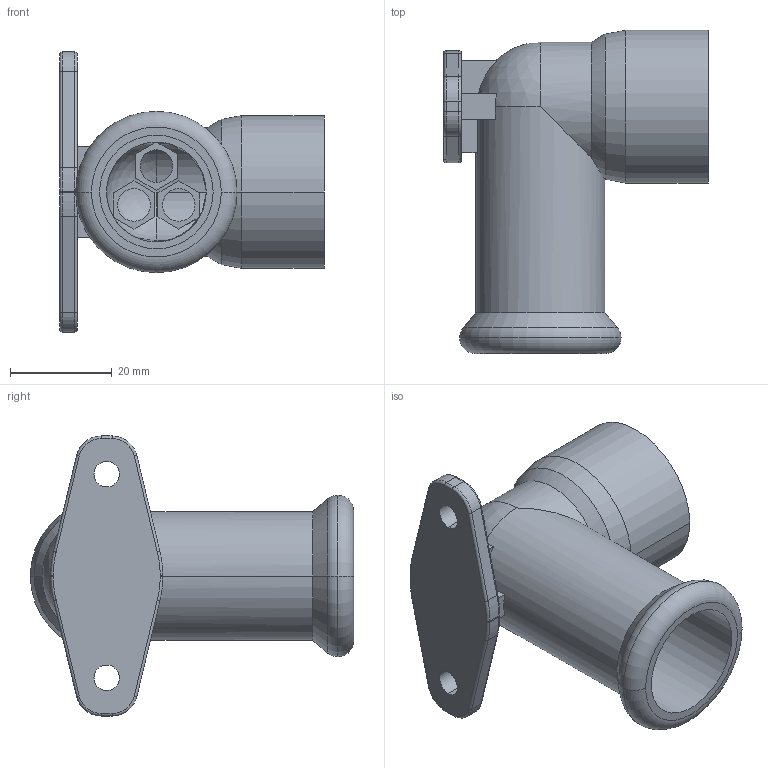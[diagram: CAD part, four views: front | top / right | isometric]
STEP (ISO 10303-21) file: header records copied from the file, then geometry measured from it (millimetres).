
FILE_DESCRIPTION(('OneSpaceDesigner STEP Export'),'2;1');
FILE_NAME('R2716 22xRp3-4.stp','2010-06-10T 9:52:00',(''),(''),'OneSpace Designer STEP processor for AP214 (Solid Model)','OneSpace Modeling 15.00A 14-Mar-2007 (C) CoCreate Software GmbH','');
FILE_SCHEMA(('AUTOMOTIVE_DESIGN { 1 0 10303 214 1 1 1 1 }'));
Length unit declared in the file: millimetre
Products named in the file (2): R2716_22xRp3-4
Assembly tree (1 placements, depth 2):
  R2716_22xRp3-4
    R2716_22xRp3-4
Bounding box: 52 x 63.5 x 55 mm (x, y, z)
Volume: 18566.6 mm3; surface area: 15766.7 mm2
Topology: 1 solids, 1 shells, 148 faces, 371 edges, 230 vertices
Faces by surface type: plane 57, cylinder 57, torus 20, cone 10, sphere 2, bspline 2
Entity records: 5317 total; most frequent: CARTESIAN_POINT 1898, ORIENTED_EDGE 738, DIRECTION 667, EDGE_CURVE 369, AXIS2_PLACEMENT_3D 242, VERTEX_POINT 230, VECTOR 183, LINE 183
